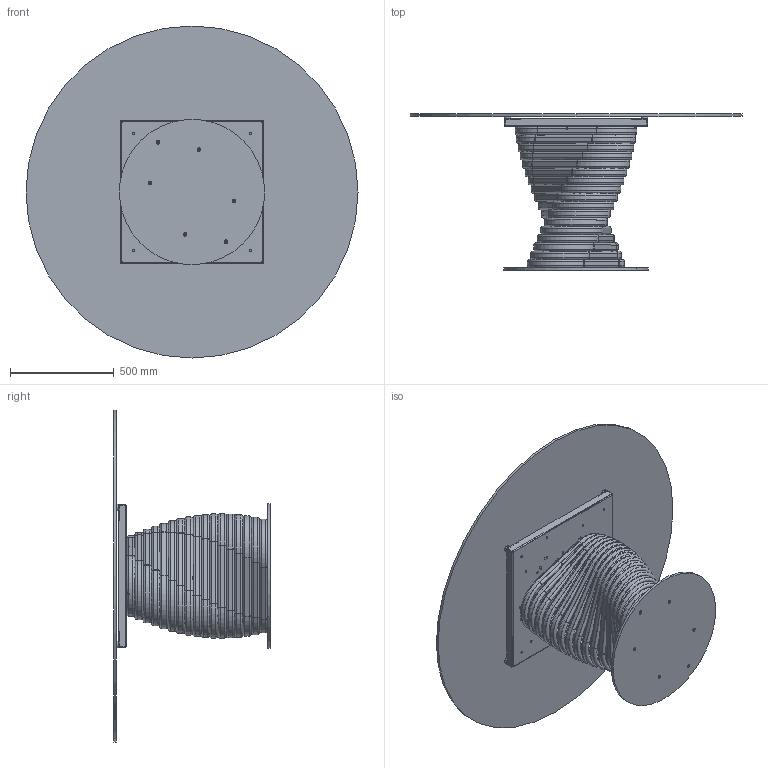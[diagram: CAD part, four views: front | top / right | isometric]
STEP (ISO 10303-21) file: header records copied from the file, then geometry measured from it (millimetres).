
FILE_DESCRIPTION (( 'STEP AP203' ), '1' );
FILE_NAME ('RO08G.STEP', '2024-08-07T13:07:26', ( '' ), ( '' ), 'SwSTEP 2.0', 'SolidWorks 2022', '' );
FILE_SCHEMA (( 'CONFIG_CONTROL_DESIGN' ));
Length unit declared in the file: millimetre
Products named in the file (15): TTAV0801-02-TELAIO UNIVERSALE TONDO-VASSOIO; TTAV0801-02-TELAIO UNIVERSALE TONDO; 434070-00-PIEDINO TPV GOMMA NERO D. 30x8max18_filo estetico; ROB200000-00-PIASTRA BASE_Ø70cm; ROBX00000INF-00-Anello rotolo INFERIORE_Default<A macchina>; RO08G; C1XCRMXX-00-piani Rotondi Cristallo_C08 D.160cm; rondella M8_8X24; ROBX00000MED-00-Anello rotolo MEDIO_Default<A macchina>; COLLO TELAIO UNIVERSALE TTAV0801 CON FERRAMENTA_MTG TOP CRISTALLO VERNICIATO-CERAMICA; ROBX00000SUP-00-Anello rotolo SUPERIORE_Default<A macchina>; ROBX00000-00-ROTOLO BASE 17 ANELLI; M8xXXmm_M8x20mm; M8xXXmm_hex_M8X20mm; TTAV0801 TELAIO UNIVERSALE TONDO-PIASTRINA
Assembly tree (45 placements, depth 4):
  RO08G
    ROB200000-00-PIASTRA BASE_Ø70cm
    ROBX00000-00-ROTOLO BASE 17 ANELLI
      ROBX00000INF-00-Anello rotolo INFERIORE_Default<A macchina>
      ROBX00000MED-00-Anello rotolo MEDIO_Default<A macchina>  x15
      ROBX00000SUP-00-Anello rotolo SUPERIORE_Default<A macchina>
    M8xXXmm_hex_M8X20mm  x6
    COLLO TELAIO UNIVERSALE TTAV0801 CON FERRAMENTA_MTG TOP CRISTALLO VERNICIATO-CERAMICA
      TTAV0801-02-TELAIO UNIVERSALE TONDO
        TTAV0801-02-TELAIO UNIVERSALE TONDO-VASSOIO
        TTAV0801 TELAIO UNIVERSALE TONDO-PIASTRINA  x4
      434070-00-PIEDINO TPV GOMMA NERO D. 30x8max18_filo estetico  x4
    rondella M8_8X24  x4
    M8xXXmm_M8x20mm  x4
    C1XCRMXX-00-piani Rotondi Cristallo_C08 D.160cm
Bounding box: 1600 x 754 x 1600 mm (x, y, z)
Volume: 35954394.2 mm3; surface area: 10966807.5 mm2
Topology: 97 solids, 97 shells, 1632 faces, 4000 edges, 2542 vertices
Faces by surface type: plane 694, cylinder 626, torus 212, cone 100
Entity records: 22537 total; most frequent: CARTESIAN_POINT 5008, DIRECTION 3284, ORIENTED_EDGE 3070, EDGE_CURVE 1535, AXIS2_PLACEMENT_3D 1209, VERTEX_POINT 989, LINE 866, VECTOR 866
